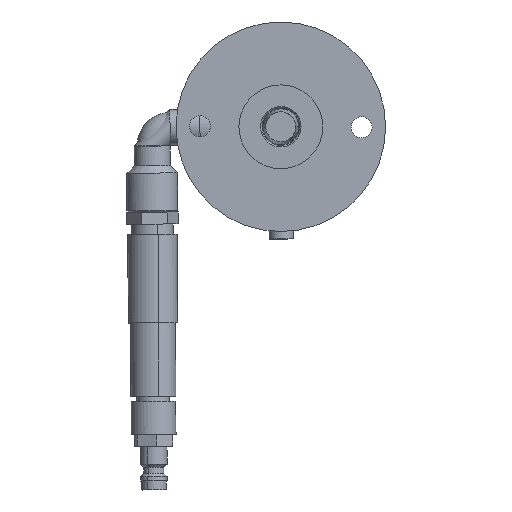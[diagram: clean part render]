
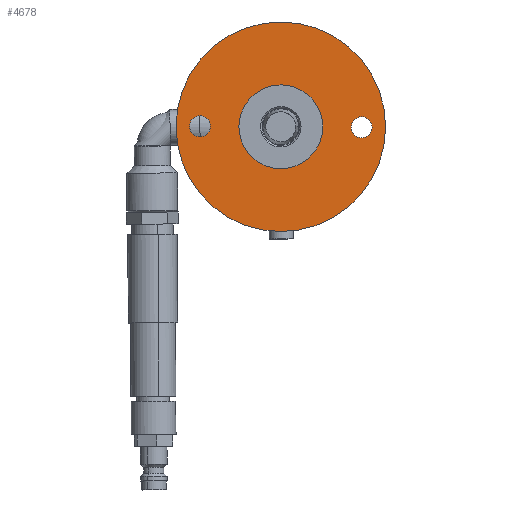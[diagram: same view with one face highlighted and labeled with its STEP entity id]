
A CAD part, front view. The second image highlights one B-rep face of the part: STEP entity #4678.
In plain terms, the highlighted planar face has unit normal (0, -1, 0) as drawn and (-1, 0, 0) by its records, which use the part's own axes.
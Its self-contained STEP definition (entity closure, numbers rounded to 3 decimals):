
#61 = CARTESIAN_POINT ( 'NONE',  ( 3., 0., -14. ) ) ;
#214 = EDGE_CURVE ( 'NONE', #255, #4047, #4335, .T. ) ;
#255 = VERTEX_POINT ( 'NONE', #61 ) ;
#649 = VERTEX_POINT ( 'NONE', #1607 ) ;
#657 = CIRCLE ( 'NONE', #7585, 35. ) ;
#691 = ORIENTED_EDGE ( 'NONE', *, *, #6334, .T. ) ;
#711 = AXIS2_PLACEMENT_3D ( 'NONE', #3342, #7729, #3975 ) ;
#771 = ORIENTED_EDGE ( 'NONE', *, *, #6109, .T. ) ;
#798 = AXIS2_PLACEMENT_3D ( 'NONE', #2876, #7900, #4801 ) ;
#847 = CARTESIAN_POINT ( 'NONE',  ( 3., 0., 0. ) ) ;
#859 = PLANE ( 'NONE',  #4959 ) ;
#964 = EDGE_CURVE ( 'NONE', #5846, #5498, #657, .T. ) ;
#1099 = EDGE_LOOP ( 'NONE', ( #5782, #3868 ) ) ;
#1172 = CARTESIAN_POINT ( 'NONE',  ( 3., -27., -3.5 ) ) ;
#1479 = DIRECTION ( 'NONE',  ( 0., 0., -1. ) ) ;
#1519 = FACE_BOUND ( 'NONE', #7485, .T. ) ;
#1571 = EDGE_CURVE ( 'NONE', #7418, #7663, #7559, .T. ) ;
#1607 = CARTESIAN_POINT ( 'NONE',  ( 3., -27., 3.5 ) ) ;
#1668 = ORIENTED_EDGE ( 'NONE', *, *, #214, .T. ) ;
#1687 = CIRCLE ( 'NONE', #3845, 3.5 ) ;
#1947 = CARTESIAN_POINT ( 'NONE',  ( 3., 27., -3.5 ) ) ;
#2328 = EDGE_LOOP ( 'NONE', ( #3622, #3800 ) ) ;
#2348 = DIRECTION ( 'NONE',  ( 1., 0., 0. ) ) ;
#2502 = EDGE_CURVE ( 'NONE', #7663, #7418, #6154, .T. ) ;
#2585 = DIRECTION ( 'NONE',  ( 1., 0., 0. ) ) ;
#2693 = AXIS2_PLACEMENT_3D ( 'NONE', #6373, #2585, #7003 ) ;
#2779 = DIRECTION ( 'NONE',  ( 1., 0., 0. ) ) ;
#2876 = CARTESIAN_POINT ( 'NONE',  ( 3., 0., 0. ) ) ;
#3169 = DIRECTION ( 'NONE',  ( 1., 0., 0. ) ) ;
#3200 = FACE_BOUND ( 'NONE', #1099, .T. ) ;
#3342 = CARTESIAN_POINT ( 'NONE',  ( 3., 0., 0. ) ) ;
#3406 = DIRECTION ( 'NONE',  ( 0., 0., -1. ) ) ;
#3463 = CARTESIAN_POINT ( 'NONE',  ( 3., 0., -35. ) ) ;
#3622 = ORIENTED_EDGE ( 'NONE', *, *, #964, .F. ) ;
#3800 = ORIENTED_EDGE ( 'NONE', *, *, #6861, .F. ) ;
#3845 = AXIS2_PLACEMENT_3D ( 'NONE', #6946, #3169, #7572 ) ;
#3868 = ORIENTED_EDGE ( 'NONE', *, *, #2502, .T. ) ;
#3904 = DIRECTION ( 'NONE',  ( 1., 0., 0. ) ) ;
#3922 = AXIS2_PLACEMENT_3D ( 'NONE', #847, #5287, #1479 ) ;
#3948 = ORIENTED_EDGE ( 'NONE', *, *, #7828, .T. ) ;
#3975 = DIRECTION ( 'NONE',  ( 0., 0., -1. ) ) ;
#4047 = VERTEX_POINT ( 'NONE', #6095 ) ;
#4156 = VERTEX_POINT ( 'NONE', #1172 ) ;
#4335 = CIRCLE ( 'NONE', #798, 14. ) ;
#4678 = ADVANCED_FACE ( 'NONE', ( #4900, #3200, #1519, #8017 ), #859, .F. ) ;
#4705 = CARTESIAN_POINT ( 'NONE',  ( 3., 27., 3.5 ) ) ;
#4801 = DIRECTION ( 'NONE',  ( 0., 0., -1. ) ) ;
#4900 = FACE_BOUND ( 'NONE', #5193, .T. ) ;
#4959 = AXIS2_PLACEMENT_3D ( 'NONE', #7144, #7170, #3406 ) ;
#5193 = EDGE_LOOP ( 'NONE', ( #771, #3948 ) ) ;
#5287 = DIRECTION ( 'NONE',  ( 1., 0., 0. ) ) ;
#5357 = CIRCLE ( 'NONE', #711, 14. ) ;
#5498 = VERTEX_POINT ( 'NONE', #3463 ) ;
#5742 = CARTESIAN_POINT ( 'NONE',  ( 3., 0., 0. ) ) ;
#5782 = ORIENTED_EDGE ( 'NONE', *, *, #1571, .T. ) ;
#5837 = AXIS2_PLACEMENT_3D ( 'NONE', #6125, #2348, #6757 ) ;
#5846 = VERTEX_POINT ( 'NONE', #8122 ) ;
#6095 = CARTESIAN_POINT ( 'NONE',  ( 3., 0., 14. ) ) ;
#6109 = EDGE_CURVE ( 'NONE', #4156, #649, #1687, .T. ) ;
#6125 = CARTESIAN_POINT ( 'NONE',  ( 3., -27., 0. ) ) ;
#6154 = CIRCLE ( 'NONE', #7602, 3.5 ) ;
#6334 = EDGE_CURVE ( 'NONE', #4047, #255, #5357, .T. ) ;
#6373 = CARTESIAN_POINT ( 'NONE',  ( 3., 27., 0. ) ) ;
#6485 = CIRCLE ( 'NONE', #5837, 3.5 ) ;
#6551 = CARTESIAN_POINT ( 'NONE',  ( 3., 27., 0. ) ) ;
#6673 = DIRECTION ( 'NONE',  ( 0., 0., -1. ) ) ;
#6757 = DIRECTION ( 'NONE',  ( 0., 0., -1. ) ) ;
#6861 = EDGE_CURVE ( 'NONE', #5498, #5846, #7673, .T. ) ;
#6946 = CARTESIAN_POINT ( 'NONE',  ( 3., -27., 0. ) ) ;
#7003 = DIRECTION ( 'NONE',  ( 0., 0., -1. ) ) ;
#7011 = DIRECTION ( 'NONE',  ( 0., 0., -1. ) ) ;
#7144 = CARTESIAN_POINT ( 'NONE',  ( 3., 0., 0. ) ) ;
#7170 = DIRECTION ( 'NONE',  ( 1., 0., 0. ) ) ;
#7418 = VERTEX_POINT ( 'NONE', #1947 ) ;
#7485 = EDGE_LOOP ( 'NONE', ( #691, #1668 ) ) ;
#7559 = CIRCLE ( 'NONE', #2693, 3.5 ) ;
#7572 = DIRECTION ( 'NONE',  ( 0., 0., -1. ) ) ;
#7585 = AXIS2_PLACEMENT_3D ( 'NONE', #5742, #3904, #7011 ) ;
#7602 = AXIS2_PLACEMENT_3D ( 'NONE', #6551, #2779, #6673 ) ;
#7663 = VERTEX_POINT ( 'NONE', #4705 ) ;
#7673 = CIRCLE ( 'NONE', #3922, 35. ) ;
#7729 = DIRECTION ( 'NONE',  ( 1., 0., 0. ) ) ;
#7828 = EDGE_CURVE ( 'NONE', #649, #4156, #6485, .T. ) ;
#7900 = DIRECTION ( 'NONE',  ( 1., 0., 0. ) ) ;
#8017 = FACE_OUTER_BOUND ( 'NONE', #2328, .T. ) ;
#8122 = CARTESIAN_POINT ( 'NONE',  ( 3., 0., 35. ) ) ;
